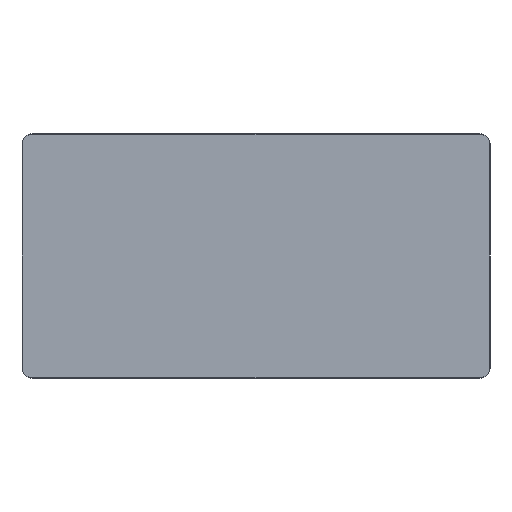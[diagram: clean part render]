
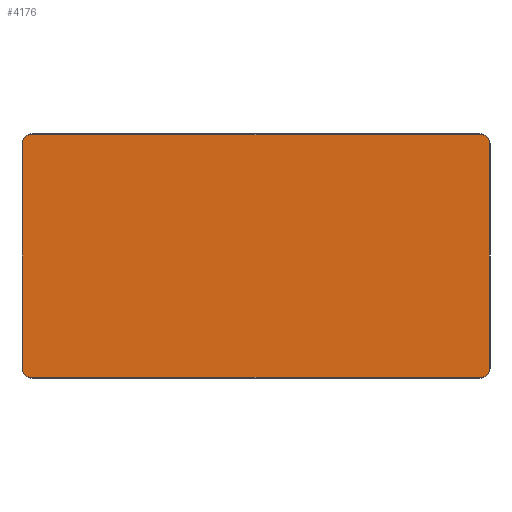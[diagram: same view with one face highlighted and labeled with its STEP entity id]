
A CAD part, front view. The second image highlights one B-rep face of the part: STEP entity #4176.
In plain terms, the highlighted planar face has unit normal (0, -1, 0).
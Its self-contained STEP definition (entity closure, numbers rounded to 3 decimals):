
#128=CARTESIAN_POINT('',(-2.86,-1.,2.9));
#129=DIRECTION('',(0.,1.,0.));
#130=DIRECTION('',(-1.,0.,0.));
#131=AXIS2_PLACEMENT_3D('',#128,#129,#130);
#137=DIRECTION('',(1.,0.,0.));
#138=VECTOR('',#137,112.4);
#139=CARTESIAN_POINT('',(-2.86,-1.,4.9));
#140=LINE('',#139,#138);
#144=CARTESIAN_POINT('',(109.54,-1.,2.9));
#145=DIRECTION('',(0.,1.,0.));
#146=DIRECTION('',(0.,0.,1.));
#147=AXIS2_PLACEMENT_3D('',#144,#145,#146);
#152=CARTESIAN_POINT('',(109.54,-1.,-53.7));
#153=DIRECTION('',(0.,1.,0.));
#154=DIRECTION('',(1.,0.,0.));
#155=AXIS2_PLACEMENT_3D('',#152,#153,#154);
#160=DIRECTION('',(-1.,0.,0.));
#161=VECTOR('',#160,112.4);
#162=CARTESIAN_POINT('',(109.54,-1.,-55.7));
#163=LINE('',#162,#161);
#167=CARTESIAN_POINT('',(-2.86,-1.,-53.7));
#168=DIRECTION('',(0.,1.,0.));
#169=DIRECTION('',(0.,0.,-1.));
#170=AXIS2_PLACEMENT_3D('',#167,#168,#169);
#175=DIRECTION('',(0.,0.,1.));
#176=VECTOR('',#175,56.6);
#177=CARTESIAN_POINT('',(-4.86,-1.,-53.7));
#178=LINE('',#177,#176);
#3526=DIRECTION('',(0.,0.,1.));
#3527=VECTOR('',#3526,56.6);
#3528=CARTESIAN_POINT('',(111.54,-1.,-53.7));
#3529=LINE('',#3528,#3527);
#3569=CARTESIAN_POINT('',(-4.86,-1.,2.9));
#3570=CARTESIAN_POINT('',(-2.86,-1.,4.9));
#3571=VERTEX_POINT('',#3569);
#3572=VERTEX_POINT('',#3570);
#3573=CARTESIAN_POINT('',(109.54,-1.,4.9));
#3574=VERTEX_POINT('',#3573);
#3575=CARTESIAN_POINT('',(111.54,-1.,2.9));
#3576=VERTEX_POINT('',#3575);
#3577=CARTESIAN_POINT('',(111.54,-1.,-53.7));
#3578=CARTESIAN_POINT('',(109.54,-1.,-55.7));
#3579=VERTEX_POINT('',#3577);
#3580=VERTEX_POINT('',#3578);
#3581=CARTESIAN_POINT('',(-2.86,-1.,-55.7));
#3582=VERTEX_POINT('',#3581);
#3583=CARTESIAN_POINT('',(-4.86,-1.,-53.7));
#3584=VERTEX_POINT('',#3583);
#4153=CARTESIAN_POINT('',(0.,-1.,0.));
#4154=DIRECTION('',(0.,1.,0.));
#4155=DIRECTION('',(1.,0.,0.));
#4156=AXIS2_PLACEMENT_3D('',#4153,#4154,#4155);
#4157=PLANE('',#4156);
#4159=ORIENTED_EDGE('',*,*,#4158,.T.);
#4161=ORIENTED_EDGE('',*,*,#4160,.T.);
#4163=ORIENTED_EDGE('',*,*,#4162,.T.);
#4165=ORIENTED_EDGE('',*,*,#4164,.F.);
#4167=ORIENTED_EDGE('',*,*,#4166,.T.);
#4169=ORIENTED_EDGE('',*,*,#4168,.T.);
#4171=ORIENTED_EDGE('',*,*,#4170,.T.);
#4173=ORIENTED_EDGE('',*,*,#4172,.T.);
#4174=EDGE_LOOP('',(#4159,#4161,#4163,#4165,#4167,#4169,#4171,#4173));
#4175=FACE_OUTER_BOUND('',#4174,.F.);
#4176=ADVANCED_FACE('',(#4175),#4157,.F.);
#132=CIRCLE('',#131,2.);
#148=CIRCLE('',#147,2.);
#156=CIRCLE('',#155,2.);
#171=CIRCLE('',#170,2.);
#4158=EDGE_CURVE('',#3571,#3572,#132,.T.);
#4160=EDGE_CURVE('',#3572,#3574,#140,.T.);
#4162=EDGE_CURVE('',#3574,#3576,#148,.T.);
#4164=EDGE_CURVE('',#3579,#3576,#3529,.T.);
#4166=EDGE_CURVE('',#3579,#3580,#156,.T.);
#4168=EDGE_CURVE('',#3580,#3582,#163,.T.);
#4170=EDGE_CURVE('',#3582,#3584,#171,.T.);
#4172=EDGE_CURVE('',#3584,#3571,#178,.T.);
